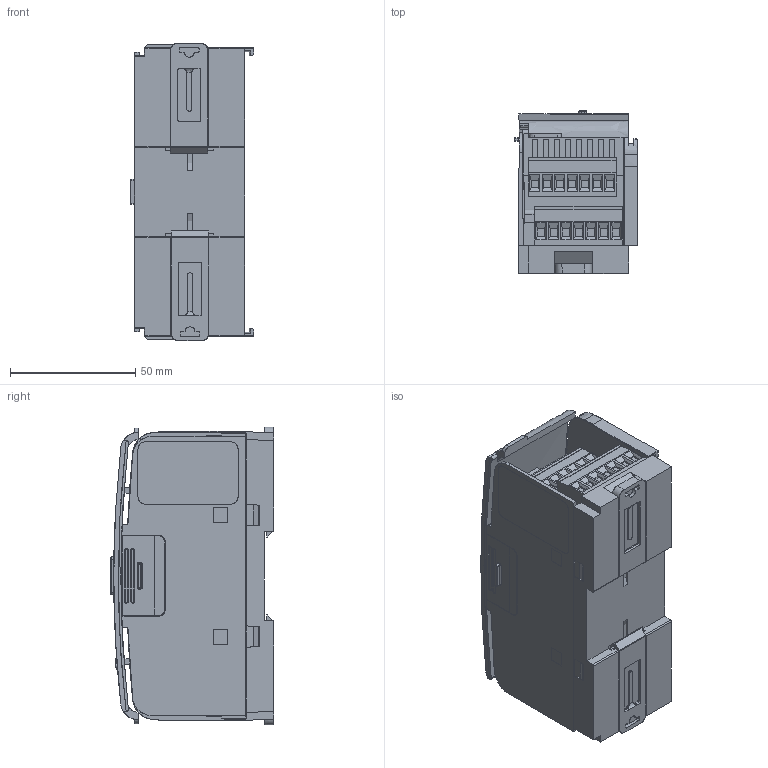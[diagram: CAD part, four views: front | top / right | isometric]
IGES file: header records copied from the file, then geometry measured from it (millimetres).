
Start section: SolidWorks IGES file using analytic representation for surfaces
Global section: file name: D:\Project\UniStream\CAD Files\3D\IGES\Uni-IO (slim).IGS; native system: SolidWorks 2011; preprocessor: SolidWorks 2011; author: baraki; date: 141020.093704; units: millimetre
Bounding box: 49.53 x 65.21 x 119.12 mm (x, y, z)
Surface area: 81237.4 mm2 (no closed solid volume)
Topology: 0 solids, 0 shells, 3117 faces, 27745 edges, 27741 vertices
Faces by surface type: bspline 2529, revolution 588
